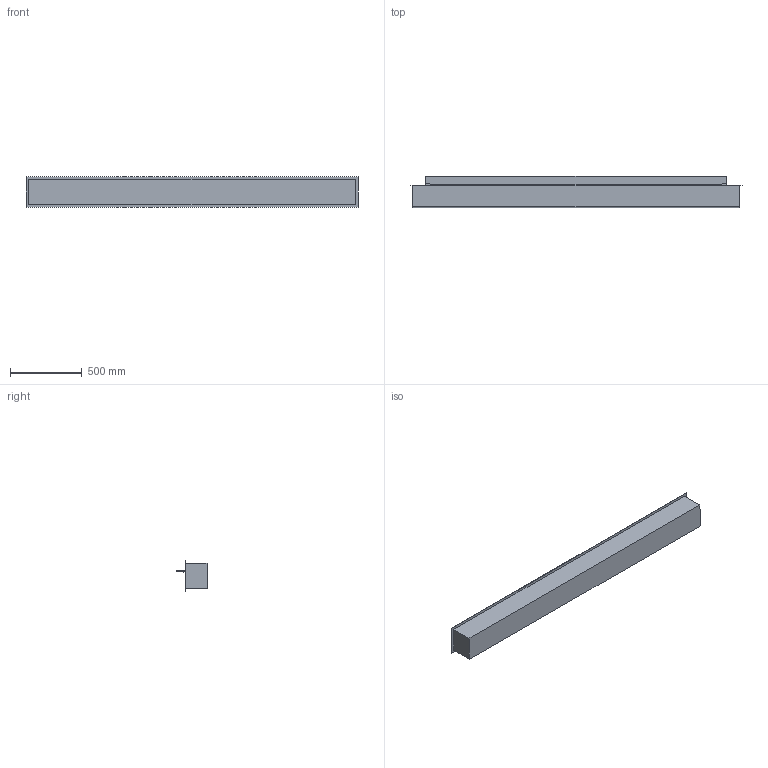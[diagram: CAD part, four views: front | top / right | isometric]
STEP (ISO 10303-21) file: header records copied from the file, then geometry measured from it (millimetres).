
FILE_DESCRIPTION (( 'STEP AP203' ), '1' );
FILE_NAME ('Denver F6 2320.STEP', '2024-03-13T09:22:45', ( '' ), ( '' ), 'SwSTEP 2.0', 'SolidWorks 2023', '' );
FILE_SCHEMA (( 'CONFIG_CONTROL_DESIGN' ));
Length unit declared in the file: millimetre
Products named in the file (1): Denver F6 2320
Bounding box: 2320 x 220 x 215 mm (x, y, z)
Volume: 65065519 mm3; surface area: 2929514.1 mm2
Topology: 8 solids, 8 shells, 68 faces, 156 edges, 104 vertices
Faces by surface type: plane 68
Entity records: 1955 total; most frequent: CARTESIAN_POINT 329, ORIENTED_EDGE 312, DIRECTION 294, LINE 156, EDGE_CURVE 156, VECTOR 156, VERTEX_POINT 104, EDGE_LOOP 74
